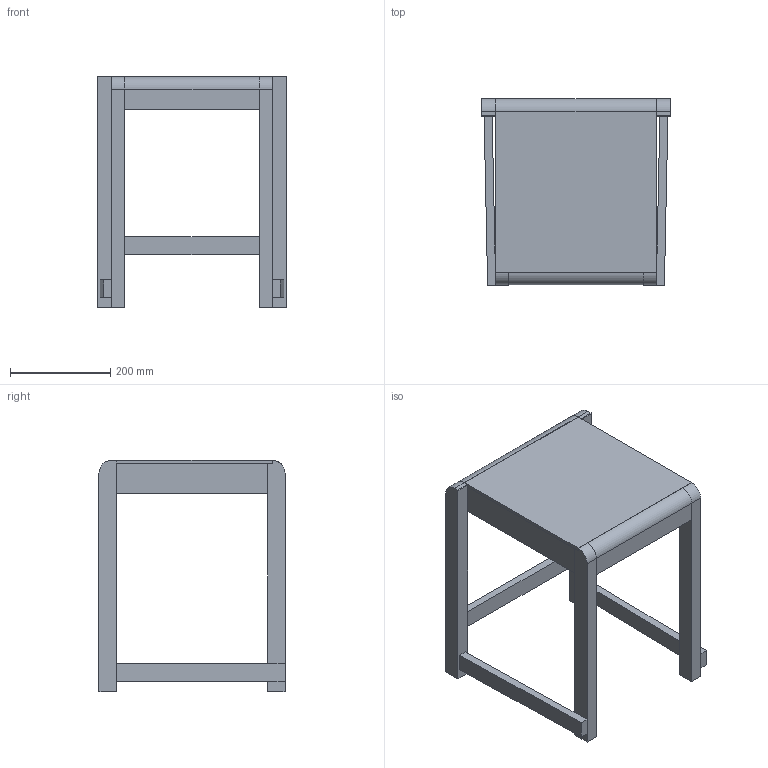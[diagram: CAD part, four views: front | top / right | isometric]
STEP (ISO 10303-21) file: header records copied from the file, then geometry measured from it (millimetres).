
FILE_DESCRIPTION(/* description */ (''),/* implementation_level */ '2;1');
FILE_NAME(/* name */ 'FRAMA_01-LowStool-3D',/* time_stamp */ '2025-10-20T10:52:09+02:00',/* author */ (''),/* organization */ (''),/* preprocessor_version */ 'ST-DEVELOPER v16.5',/* originating_system */ 'Rhino 7.38',/* authorisation */ '');
FILE_SCHEMA (('CONFIG_CONTROL_DESIGN'));
Length unit declared in the file: millimetre
Products named in the file (1): Document
Bounding box: 376 x 370.5 x 460 mm (x, y, z)
Volume: 4932554.2 mm3; surface area: 773361.7 mm2
Topology: 12 solids, 12 shells, 88 faces, 192 edges, 128 vertices
Faces by surface type: plane 80, cylinder 8
Entity records: 2116 total; most frequent: CARTESIAN_POINT 698, ORIENTED_EDGE 384, EDGE_CURVE 192, VERTEX_POINT 128, DIRECTION 92, AXIS2_PLACEMENT_3D 90, ADVANCED_FACE 88, FACE_OUTER_BOUND 88
